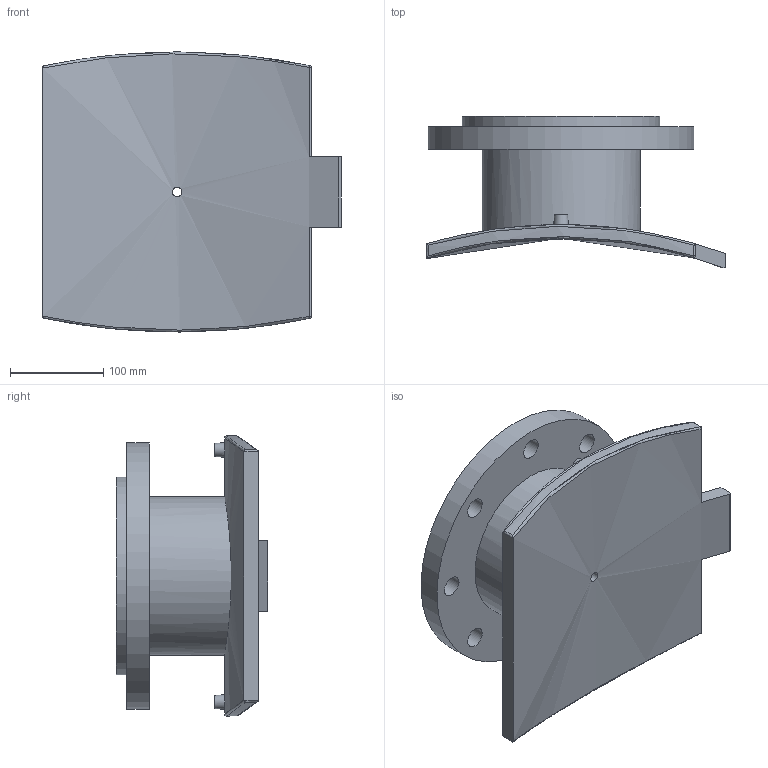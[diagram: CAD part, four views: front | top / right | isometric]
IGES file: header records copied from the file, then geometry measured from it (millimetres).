
Global section: file name: 4959031000150T; native system: Autodesk Inventor 2019; preprocessor: unknown; author: KIM; date: 20240403.210912; units: millimetre
Bounding box: 320 x 162.01 x 299.98 mm (x, y, z)
Volume: 3458810.3 mm3; surface area: 413222.5 mm2
Topology: 1 solids, 1 shells, 58 faces, 151 edges, 118 vertices
Faces by surface type: bspline 58
